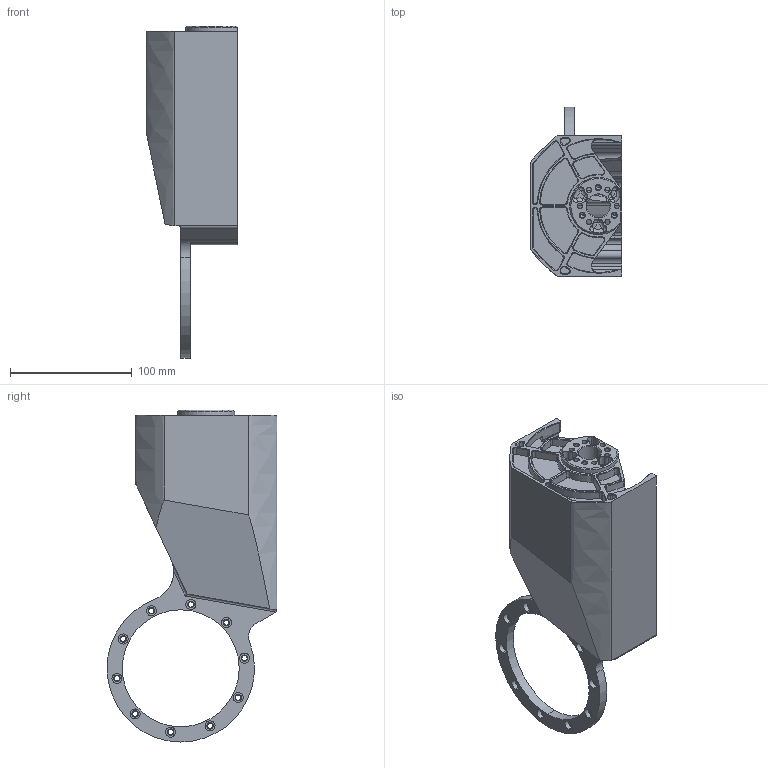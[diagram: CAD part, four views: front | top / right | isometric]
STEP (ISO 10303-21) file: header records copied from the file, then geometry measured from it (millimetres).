
FILE_DESCRIPTION((''),'2;1');
FILE_NAME('KD-D-301L_L_FEMUR_LOWER_DRIVE_1','2025-07-12T16:08:10',('Administrator'),(''),'CREO PARAMETRIC BY PTC INC, 2022073','CREO PARAMETRIC BY PTC INC, 2022073','');
FILE_SCHEMA(('CONFIG_CONTROL_DESIGN'));
Length unit declared in the file: millimetre
Products named in the file (1): KD-D-301L_L_FEMUR_LOWER_DRIVE_1
Bounding box: 75.5 x 139.5 x 272.5 mm (x, y, z)
Volume: 223846.8 mm3; surface area: 136831.2 mm2
Topology: 1 solids, 1 shells, 618 faces, 1682 edges, 1053 vertices
Faces by surface type: cylinder 265, cone 145, plane 126, bspline 39, sphere 17, torus 14, extrusion 12
Entity records: 23336 total; most frequent: CARTESIAN_POINT 7713, DIRECTION 3365, ORIENTED_EDGE 3270, EDGE_CURVE 1635, AXIS2_PLACEMENT_3D 1339, VERTEX_POINT 1053, CIRCLE 772, EDGE_LOOP 688
